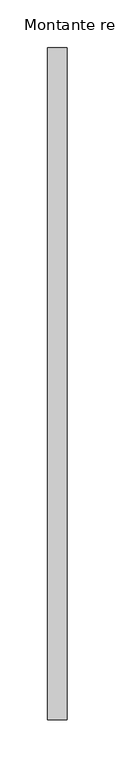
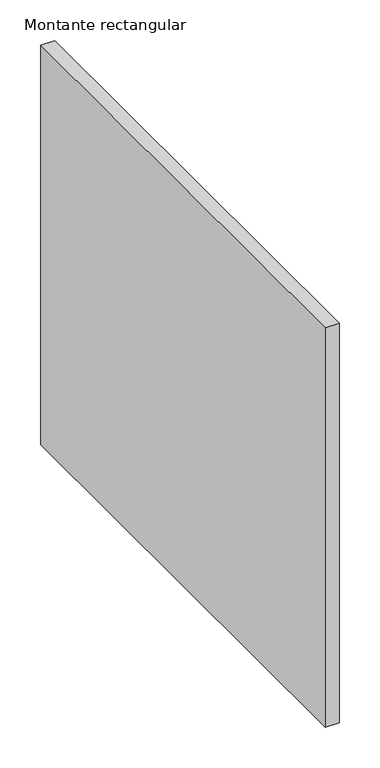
"""IFC4 building model written with IfcOpenShell, lengths in millimetres: member geometry, Montante rectangular : CIRCLES 2."""

from ifc_helpers import new_model, si_unit, frame, origin, place, context, project, spatial, polyline, outline, extrude, source, transform, mapped, element, save


def montante_rectangular_d17c8d82(model_context):
    return source(origin(), model_context, "Body", "SweptSolid", [
        extrude(outline(polyline([(0.0, 350.0), (0.0, -350.0), (-20.0, -350.0), (-20.0, 350.0), (0.0, 350.0)])), frame((0.0, 0.0, -600.0), z_axis=(0.0, 0.0, 1.0), x_axis=(1.0, 0.0, 0.0)), (0.0, 0.0, 1.0), 600.0),
    ])


if __name__ == "__main__":
    model = new_model("IFC4")
    model_context = context("Model", 3, world=origin())
    ifc_project = project(units=[si_unit("LENGTHUNIT", "METRE", prefix="MILLI")], contexts=[model_context])
    site = spatial("IfcSite", under=ifc_project)
    building = spatial("IfcBuilding", under=site)
    placement = place(None, origin())
    montante_rectangular_shape = montante_rectangular_d17c8d82(model_context)
    element("IfcMember", 1, ObjectType="Montante rectangular : CIRCLES 2", at=placement, inside=building, context=model_context, shape_type="MappedRepresentation", body=[
        mapped(montante_rectangular_shape, transform((0.0, 0.0, 0.0), x_axis=(1.0, 0.0, 0.0), y_axis=(0.0, 1.0, 0.0), z_axis=(0.0, 0.0, 1.0))),
    ])
    save(model, "model.ifc")
